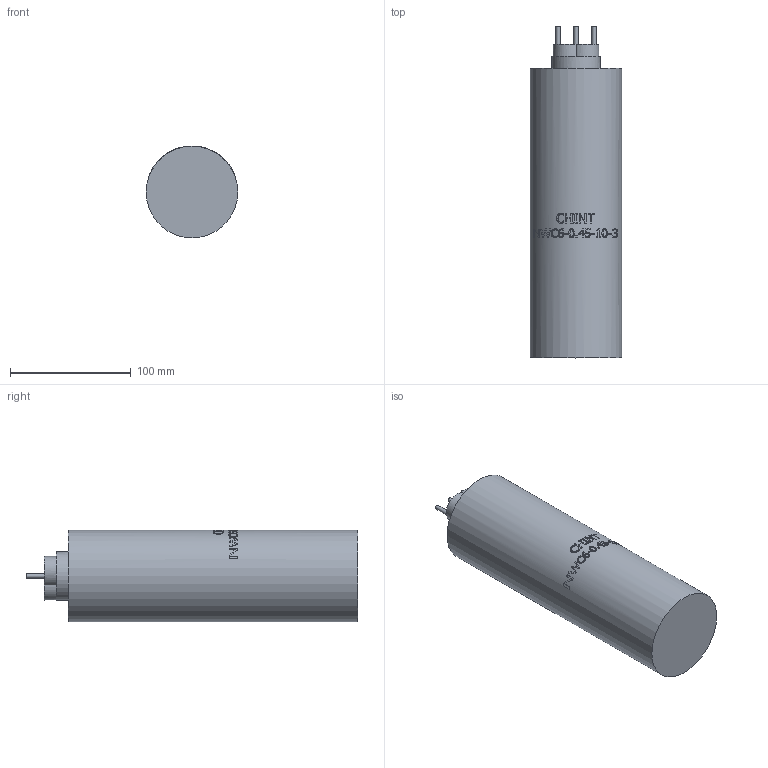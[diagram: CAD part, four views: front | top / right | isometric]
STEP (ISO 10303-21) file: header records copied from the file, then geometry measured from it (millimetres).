
FILE_DESCRIPTION(/* description */ (''),/* implementation_level */ '2;1');
FILE_NAME(/* name */ 'D:\CHINT3\\X2\041A043E043D04340435043D044104300442043E0440044B\X0\\NWC6-0.45-10-3.stp',/* time_stamp */ '2017-12-13T20:56:41+03:00',/* author */ ('RSagdiev'),/* organization */ (''),/* preprocessor_version */ 'ST-DEVELOPER v16.5',/* originating_system */ 'Autodesk Inventor 2017',/* authorisation */ '');
FILE_SCHEMA (('AUTOMOTIVE_DESIGN { 1 0 10303 214 3 1 1 }'));
Length unit declared in the file: millimetre
Products named in the file (1): NWC6-0.45-10-3
Bounding box: 76 x 275 x 76.1 mm (x, y, z)
Volume: 1109016.1 mm3; surface area: 72318.5 mm2
Topology: 5 solids, 5 shells, 284 faces, 747 edges, 497 vertices
Faces by surface type: plane 144, bspline 108, cylinder 32
Full cylindrical faces by diameter (mm): 3.5 x3, 40 x1, 74 x1, 76 x1
Entity records: 10664 total; most frequent: CARTESIAN_POINT 4175, ORIENTED_EDGE 1480, DIRECTION 1049, EDGE_CURVE 740, VERTEX_POINT 496, LINE 353, VECTOR 353, AXIS2_PLACEMENT_3D 348
